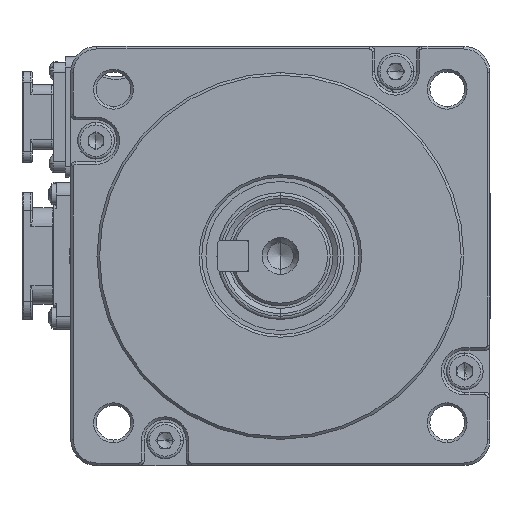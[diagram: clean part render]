
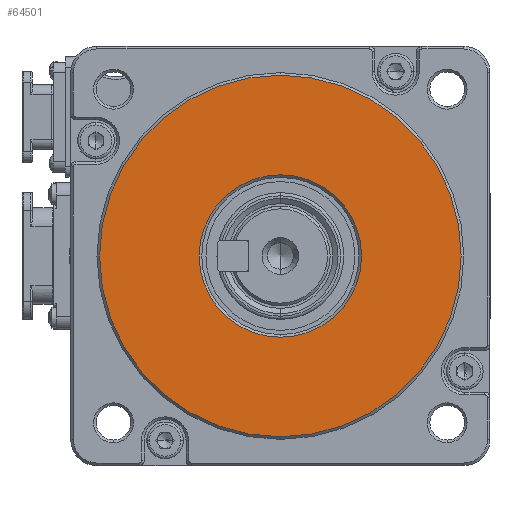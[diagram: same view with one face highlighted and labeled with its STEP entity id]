
A CAD part, left-side view. The second image highlights one B-rep face of the part: STEP entity #64501.
In plain terms, the highlighted planar face has unit normal (-1, 0, 0).
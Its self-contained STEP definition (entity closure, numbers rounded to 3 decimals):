
#19 = CIRCLE ( 'NONE', #28675, 34.5 ) ;
#1567 = DIRECTION ( 'NONE',  ( 0., 0., 1. ) ) ;
#3711 = CARTESIAN_POINT ( 'NONE',  ( -59.594, -21.987, 198.169 ) ) ;
#5130 = VERTEX_POINT ( 'NONE', #36234 ) ;
#6776 = EDGE_CURVE ( 'NONE', #72180, #40633, #9801, .T. ) ;
#8395 = CARTESIAN_POINT ( 'NONE',  ( -59.594, -21.987, 213.669 ) ) ;
#9801 = CIRCLE ( 'NONE', #56742, 15.5 ) ;
#16388 = EDGE_CURVE ( 'NONE', #5130, #22885, #19, .T. ) ;
#18304 = DIRECTION ( 'NONE',  ( 0., 0., 1. ) ) ;
#18416 = DIRECTION ( 'NONE',  ( 0., 0., 1. ) ) ;
#19480 = FACE_OUTER_BOUND ( 'NONE', #19998, .T. ) ;
#19998 = EDGE_LOOP ( 'NONE', ( #33837, #94638 ) ) ;
#20906 = ORIENTED_EDGE ( 'NONE', *, *, #37488, .T. ) ;
#22676 = PLANE ( 'NONE',  #51762 ) ;
#22885 = VERTEX_POINT ( 'NONE', #25243 ) ;
#23857 = DIRECTION ( 'NONE',  ( -1., 0., 0. ) ) ;
#25041 = EDGE_CURVE ( 'NONE', #22885, #5130, #38976, .T. ) ;
#25243 = CARTESIAN_POINT ( 'NONE',  ( -59.594, -21.987, 232.669 ) ) ;
#28675 = AXIS2_PLACEMENT_3D ( 'NONE', #3711, #23857, #52570 ) ;
#30071 = DIRECTION ( 'NONE',  ( 0., 0., 1. ) ) ;
#30740 = CARTESIAN_POINT ( 'NONE',  ( -59.594, -21.987, 198.169 ) ) ;
#33837 = ORIENTED_EDGE ( 'NONE', *, *, #16388, .T. ) ;
#36234 = CARTESIAN_POINT ( 'NONE',  ( -59.594, -21.987, 163.669 ) ) ;
#37488 = EDGE_CURVE ( 'NONE', #40633, #72180, #92285, .T. ) ;
#38976 = CIRCLE ( 'NONE', #46820, 34.5 ) ;
#40633 = VERTEX_POINT ( 'NONE', #51686 ) ;
#40660 = CARTESIAN_POINT ( 'NONE',  ( -59.594, -21.987, 198.169 ) ) ;
#43461 = AXIS2_PLACEMENT_3D ( 'NONE', #40660, #46729, #18304 ) ;
#43681 = ORIENTED_EDGE ( 'NONE', *, *, #6776, .T. ) ;
#45597 = CARTESIAN_POINT ( 'NONE',  ( -59.594, -21.987, 198.169 ) ) ;
#46729 = DIRECTION ( 'NONE',  ( 1., 0., 0. ) ) ;
#46820 = AXIS2_PLACEMENT_3D ( 'NONE', #30740, #82177, #1567 ) ;
#47639 = EDGE_LOOP ( 'NONE', ( #43681, #20906 ) ) ;
#51686 = CARTESIAN_POINT ( 'NONE',  ( -59.594, -21.987, 182.669 ) ) ;
#51762 = AXIS2_PLACEMENT_3D ( 'NONE', #71582, #93260, #30071 ) ;
#52570 = DIRECTION ( 'NONE',  ( 0., 0., 1. ) ) ;
#56742 = AXIS2_PLACEMENT_3D ( 'NONE', #45597, #60905, #18416 ) ;
#60905 = DIRECTION ( 'NONE',  ( 1., 0., 0. ) ) ;
#64501 = ADVANCED_FACE ( 'NONE', ( #19480, #92623 ), #22676, .T. ) ;
#71582 = CARTESIAN_POINT ( 'NONE',  ( -59.594, -21.987, 198.169 ) ) ;
#72180 = VERTEX_POINT ( 'NONE', #8395 ) ;
#82177 = DIRECTION ( 'NONE',  ( -1., 0., 0. ) ) ;
#92285 = CIRCLE ( 'NONE', #43461, 15.5 ) ;
#92623 = FACE_BOUND ( 'NONE', #47639, .T. ) ;
#93260 = DIRECTION ( 'NONE',  ( -1., 0., 0. ) ) ;
#94638 = ORIENTED_EDGE ( 'NONE', *, *, #25041, .T. ) ;
